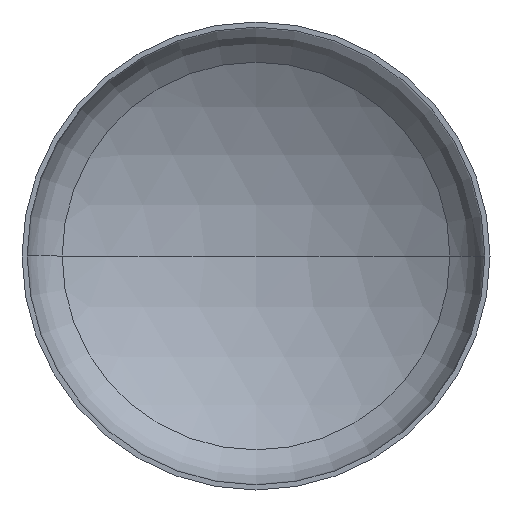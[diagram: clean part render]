
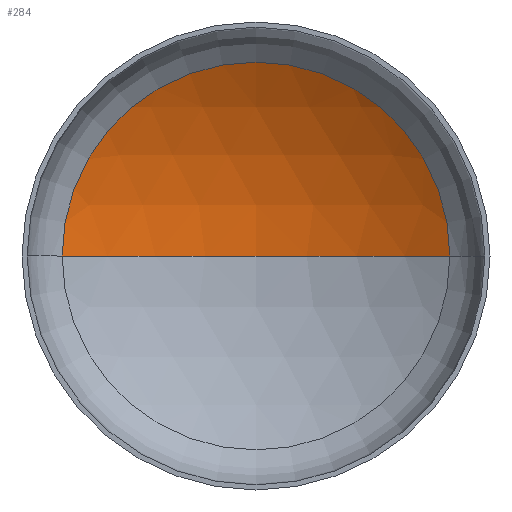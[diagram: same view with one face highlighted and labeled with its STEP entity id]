
A CAD part, front view. The second image highlights one B-rep face of the part: STEP entity #284.
In plain terms, the highlighted spherical face has radius 800 mm.
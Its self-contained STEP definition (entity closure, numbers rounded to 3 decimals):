
#8 = EDGE_LOOP ( 'NONE', ( #14, #74, #33 ) ) ;
#11 = AXIS2_PLACEMENT_3D ( 'NONE', #334, #162, #137 ) ;
#12 = AXIS2_PLACEMENT_3D ( 'NONE', #169, #171, #41 ) ;
#14 = ORIENTED_EDGE ( 'NONE', *, *, #380, .F. ) ;
#30 = AXIS2_PLACEMENT_3D ( 'NONE', #201, #402, #267 ) ;
#31 = VERTEX_POINT ( 'NONE', #390 ) ;
#33 = ORIENTED_EDGE ( 'NONE', *, *, #333, .T. ) ;
#41 = DIRECTION ( 'NONE',  ( 1., 0., 0. ) ) ;
#74 = ORIENTED_EDGE ( 'NONE', *, *, #338, .T. ) ;
#103 = VERTEX_POINT ( 'NONE', #372 ) ;
#135 = VERTEX_POINT ( 'NONE', #319 ) ;
#137 = DIRECTION ( 'NONE',  ( -1., 0., 0. ) ) ;
#145 = DIRECTION ( 'NONE',  ( 0., 0., 1. ) ) ;
#147 = CIRCLE ( 'NONE', #11, 800. ) ;
#155 = SPHERICAL_SURFACE ( 'NONE', #30, 800. ) ;
#162 = DIRECTION ( 'NONE',  ( 0., 0., -1. ) ) ;
#169 = CARTESIAN_POINT ( 'NONE',  ( 0., 172.6, 0. ) ) ;
#171 = DIRECTION ( 'NONE',  ( 0., -1., 0. ) ) ;
#186 = CIRCLE ( 'NONE', #281, 800. ) ;
#201 = CARTESIAN_POINT ( 'NONE',  ( 0., -511.787, 0. ) ) ;
#267 = DIRECTION ( 'NONE',  ( -1., 0., 0. ) ) ;
#281 = AXIS2_PLACEMENT_3D ( 'NONE', #362, #145, #299 ) ;
#284 = ADVANCED_FACE ( 'NONE', ( #406 ), #155, .F. ) ;
#299 = DIRECTION ( 'NONE',  ( 1., 0., 0. ) ) ;
#319 = CARTESIAN_POINT ( 'NONE',  ( 0., 288.213, 0. ) ) ;
#333 = EDGE_CURVE ( 'NONE', #31, #103, #389, .T. ) ;
#334 = CARTESIAN_POINT ( 'NONE',  ( 0., -511.787, 0. ) ) ;
#338 = EDGE_CURVE ( 'NONE', #135, #31, #147, .T. ) ;
#362 = CARTESIAN_POINT ( 'NONE',  ( 0., -511.787, 0. ) ) ;
#372 = CARTESIAN_POINT ( 'NONE',  ( -414.264, 172.6, 0. ) ) ;
#380 = EDGE_CURVE ( 'NONE', #135, #103, #186, .T. ) ;
#389 = CIRCLE ( 'NONE', #12, 414.264 ) ;
#390 = CARTESIAN_POINT ( 'NONE',  ( 414.264, 172.6, 0. ) ) ;
#402 = DIRECTION ( 'NONE',  ( 0., 0., -1. ) ) ;
#406 = FACE_OUTER_BOUND ( 'NONE', #8, .T. ) ;
